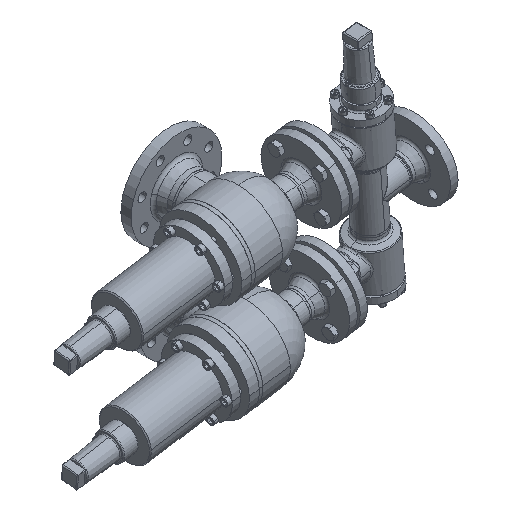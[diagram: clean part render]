
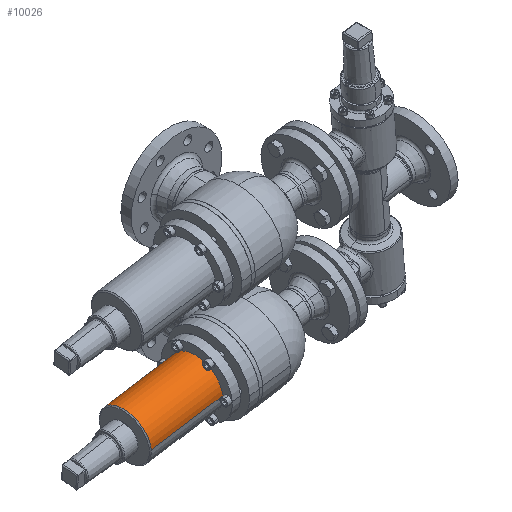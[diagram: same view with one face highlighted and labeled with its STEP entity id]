
A CAD part, isometric view. The second image highlights one B-rep face of the part: STEP entity #10026.
In plain terms, the highlighted cylindrical face has radius 53 mm (diameter 106 mm), a partial arc.
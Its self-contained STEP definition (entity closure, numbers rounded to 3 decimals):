
#329 = EDGE_CURVE ( 'NONE', #2963, #51811, #43253, .T. ) ;
#33514 = ORIENTED_EDGE ( 'NONE', *, *, #11180, .T. ) ;
#17708 = LINE ( 'NONE', #17709, #17710 ) ;
#17709 = CARTESIAN_POINT ( 'NONE',  ( 0., -43.922, -53. ) ) ;
#17710 = VECTOR ( 'NONE', #17711, 1000. ) ;
#17711 = DIRECTION ( 'NONE',  ( 0., -1., 0. ) ) ;
#34596 = ORIENTED_EDGE ( 'NONE', *, *, #329, .F. ) ;
#51811 = VERTEX_POINT ( 'NONE', #27827 ) ;
#2963 = VERTEX_POINT ( 'NONE', #47661 ) ;
#3620 = VERTEX_POINT ( 'NONE', #48047 ) ;
#22783 = CARTESIAN_POINT ( 'NONE',  ( 0., -139.058, -53. ) ) ;
#40741 = CIRCLE ( 'NONE', #40742, 53. ) ;
#40742 = AXIS2_PLACEMENT_3D ( 'NONE', #40743, #40744, #40745 ) ;
#40743 = CARTESIAN_POINT ( 'NONE',  ( 0., -139.058, 0. ) ) ;
#40744 = DIRECTION ( 'NONE',  ( 0., -1., 0. ) ) ;
#40745 = DIRECTION ( 'NONE',  ( 0., 0., -1. ) ) ;
#9318 = EDGE_LOOP ( 'NONE', ( #34596, #33514, #32226, #30689 ) ) ;
#9378 = FACE_OUTER_BOUND ( 'NONE', #9318, .T. ) ;
#9379 = CYLINDRICAL_SURFACE ( 'NONE', #9380, 53. ) ;
#9380 = AXIS2_PLACEMENT_3D ( 'NONE', #9381, #9382, #9383 ) ;
#9381 = CARTESIAN_POINT ( 'NONE',  ( 0., -43.922, 0. ) ) ;
#9382 = DIRECTION ( 'NONE',  ( 0., -1., 0. ) ) ;
#9383 = DIRECTION ( 'NONE',  ( 0., 0., -1. ) ) ;
#10026 = ADVANCED_FACE ( 'NONE', ( #9378 ), #9379, .T. ) ;
#43253 = LINE ( 'NONE', #43254, #43255 ) ;
#43254 = CARTESIAN_POINT ( 'NONE',  ( 0., -43.922, 53. ) ) ;
#43255 = VECTOR ( 'NONE', #43256, 1000. ) ;
#43256 = DIRECTION ( 'NONE',  ( 0., -1., 0. ) ) ;
#11180 = EDGE_CURVE ( 'NONE', #2963, #3620, #11243, .T. ) ;
#11243 = CIRCLE ( 'NONE', #11244, 53. ) ;
#11244 = AXIS2_PLACEMENT_3D ( 'NONE', #11245, #11246, #11247 ) ;
#11245 = CARTESIAN_POINT ( 'NONE',  ( 0., 28.742, 0. ) ) ;
#11246 = DIRECTION ( 'NONE',  ( 0., -1., 0. ) ) ;
#11247 = DIRECTION ( 'NONE',  ( 0., 0., -1. ) ) ;
#27827 = CARTESIAN_POINT ( 'NONE',  ( 0., -139.058, 53. ) ) ;
#45887 = EDGE_CURVE ( 'NONE', #3620, #48515, #17708, .T. ) ;
#29587 = EDGE_CURVE ( 'NONE', #51811, #48515, #40741, .T. ) ;
#30689 = ORIENTED_EDGE ( 'NONE', *, *, #29587, .F. ) ;
#47661 = CARTESIAN_POINT ( 'NONE',  ( 0., 28.742, 53. ) ) ;
#48047 = CARTESIAN_POINT ( 'NONE',  ( 0., 28.742, -53. ) ) ;
#48515 = VERTEX_POINT ( 'NONE', #22783 ) ;
#32226 = ORIENTED_EDGE ( 'NONE', *, *, #45887, .T. ) ;
